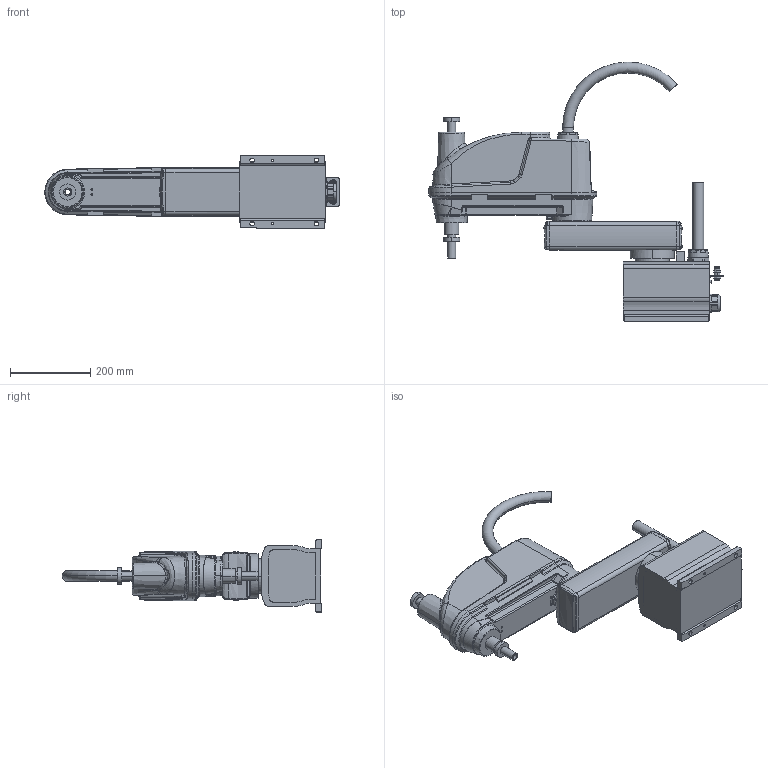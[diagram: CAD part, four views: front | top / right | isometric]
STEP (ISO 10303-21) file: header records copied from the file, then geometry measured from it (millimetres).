
FILE_DESCRIPTION((''),'2;1');
FILE_NAME('THL500_3D_ASM','2024-06-11T16:25:57',('15575'),(''),'CREO PARAMETRIC BY PTC INC, 2020454','CREO PARAMETRIC BY PTC INC, 2020454','');
FILE_SCHEMA(('AUTOMOTIVE_DESIGN { 1 0 10303 214 1 1 1 1 }'));
Products named in the file (5): THL567_BASE; THL500_1ST_ARM; THL500_BALL_SCREW; THL500_2ND_ARM1; THL500_3D_ASM
Assembly tree (4 placements, depth 2):
  THL500_3D_ASM
    THL567_BASE
    THL500_1ST_ARM
    THL500_BALL_SCREW
    THL500_2ND_ARM1
Bounding box: 733.99 x 647.48 x 180 mm (x, y, z)
Volume: 4278336.5 mm3; surface area: 1291447.4 mm2
Topology: 4 solids, 11 shells, 1498 faces, 3655 edges, 2325 vertices
Faces by surface type: plane 613, cylinder 549, bspline 169, cone 79, torus 62, sphere 20, revolution 6
Entity records: 63839 total; most frequent: CARTESIAN_POINT 21529, ORIENTED_EDGE 7262, DIRECTION 7169, EDGE_CURVE 3631, AXIS2_PLACEMENT_3D 2687, VERTEX_POINT 2301, VECTOR 1774, LINE 1774
